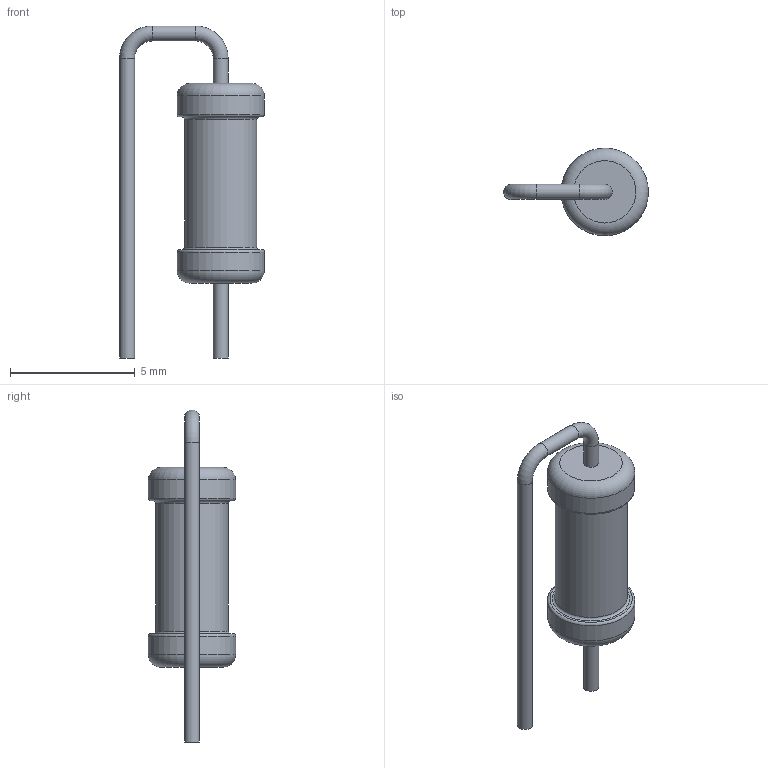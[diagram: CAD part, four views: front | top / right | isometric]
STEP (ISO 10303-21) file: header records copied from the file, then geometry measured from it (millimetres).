
FILE_DESCRIPTION(('STEP AP203'), '1');
FILE_NAME('栖闉罻', '', ('UNSPECIFIED'), ('UNSPECIFIED'), 'ASCON STEP Converter 1.6', 'ASCON Math Kernel', '');
FILE_SCHEMA(('CONFIG_CONTROL_DESIGN'));
Length unit declared in the file: millimetre
Assembly tree (1 placements, depth 2):
  (unnamed)
    (unnamed)
Bounding box: 5.8 x 3.5 x 13.3 mm (x, y, z)
Volume: 65.7 mm3; surface area: 135.9 mm2
Topology: 1 solids, 1 shells, 21 faces, 35 edges, 20 vertices
Faces by surface type: torus 8, cylinder 7, plane 6
Full cylindrical faces by diameter (mm): 0.6 x4, 2.9 x1, 3.5 x2
Entity records: 676 total; most frequent: DIRECTION 86, CARTESIAN_POINT 63, AXIS2_PLACEMENT_3D 43, EDGE_LOOP 40, ORIENTED_EDGE 40, FACE_OUTER_BOUND 30, COLOUR_RGB 22, FILL_AREA_STYLE_COLOUR 22
